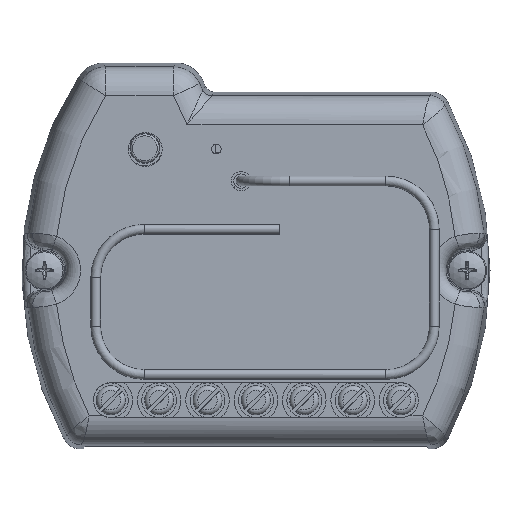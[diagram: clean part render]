
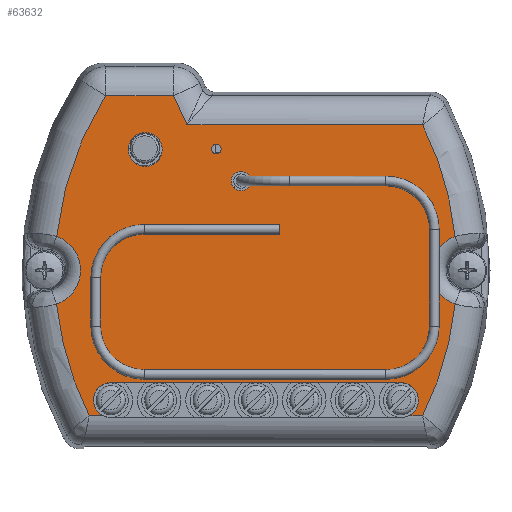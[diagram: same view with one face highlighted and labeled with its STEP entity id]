
A CAD part, top view. The second image highlights one B-rep face of the part: STEP entity #63632.
In plain terms, the highlighted planar face has unit normal (0, 0, 1).
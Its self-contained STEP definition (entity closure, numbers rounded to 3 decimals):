
#2546=FACE_BOUND('',#13447,.T.);
#2547=FACE_BOUND('',#13448,.T.);
#2548=FACE_BOUND('',#13449,.T.);
#7921=PLANE('',#71669);
#9718=FACE_OUTER_BOUND('',#13446,.T.);
#13446=EDGE_LOOP('',(#46243,#46244,#46245,#46246,#46247,#46248,#46249,#46250,
#46251,#46252,#46253,#46254,#46255,#46256));
#13447=EDGE_LOOP('',(#46257));
#13448=EDGE_LOOP('',(#46258));
#13449=EDGE_LOOP('',(#46259));
#17591=LINE('',#104150,#22720);
#17593=LINE('',#104202,#22722);
#17596=LINE('',#104214,#22725);
#17599=LINE('',#104282,#22728);
#17600=LINE('',#104286,#22729);
#17601=LINE('',#104290,#22730);
#22720=VECTOR('',#80246,10.);
#22722=VECTOR('',#80252,10.);
#22725=VECTOR('',#80267,10.);
#22728=VECTOR('',#80296,10.);
#22729=VECTOR('',#80299,10.);
#22730=VECTOR('',#80302,10.);
#28225=CIRCLE('',#71594,1.);
#28229=CIRCLE('',#71600,0.5);
#28264=CIRCLE('',#71664,33.582);
#28267=CIRCLE('',#71670,3.724);
#28268=CIRCLE('',#71671,33.582);
#28269=CIRCLE('',#71672,1.8);
#28270=CIRCLE('',#71673,1.8);
#28271=CIRCLE('',#71674,33.582);
#28272=CIRCLE('',#71675,3.724);
#28273=CIRCLE('',#71676,33.582);
#28274=CIRCLE('',#71677,1.75);
#31291=VERTEX_POINT('',#101816);
#31294=VERTEX_POINT('',#101826);
#31391=VERTEX_POINT('',#104138);
#31393=VERTEX_POINT('',#104149);
#31395=VERTEX_POINT('',#104200);
#31398=VERTEX_POINT('',#104212);
#31402=VERTEX_POINT('',#104252);
#31407=VERTEX_POINT('',#104277);
#31408=VERTEX_POINT('',#104279);
#31409=VERTEX_POINT('',#104281);
#31410=VERTEX_POINT('',#104283);
#31411=VERTEX_POINT('',#104285);
#31412=VERTEX_POINT('',#104287);
#31413=VERTEX_POINT('',#104289);
#31414=VERTEX_POINT('',#104291);
#31415=VERTEX_POINT('',#104293);
#31416=VERTEX_POINT('',#104296);
#36848=EDGE_CURVE('',#31291,#31291,#28225,.T.);
#36853=EDGE_CURVE('',#31294,#31294,#28229,.T.);
#36977=EDGE_CURVE('',#31391,#31393,#17591,.T.);
#36981=EDGE_CURVE('',#31395,#31391,#17593,.T.);
#36987=EDGE_CURVE('',#31398,#31395,#17596,.T.);
#36996=EDGE_CURVE('',#31402,#31398,#28264,.T.);
#37002=EDGE_CURVE('',#31407,#31402,#28267,.T.);
#37003=EDGE_CURVE('',#31408,#31407,#28268,.T.);
#37004=EDGE_CURVE('',#31409,#31408,#17599,.T.);
#37005=EDGE_CURVE('',#31409,#31410,#28269,.T.);
#37006=EDGE_CURVE('',#31410,#31411,#17600,.T.);
#37007=EDGE_CURVE('',#31411,#31412,#28270,.T.);
#37008=EDGE_CURVE('',#31413,#31412,#17601,.T.);
#37009=EDGE_CURVE('',#31414,#31413,#28271,.T.);
#37010=EDGE_CURVE('',#31415,#31414,#28272,.T.);
#37011=EDGE_CURVE('',#31393,#31415,#28273,.T.);
#37012=EDGE_CURVE('',#31416,#31416,#28274,.T.);
#46243=ORIENTED_EDGE('',*,*,#36987,.F.);
#46244=ORIENTED_EDGE('',*,*,#36996,.F.);
#46245=ORIENTED_EDGE('',*,*,#37002,.F.);
#46246=ORIENTED_EDGE('',*,*,#37003,.F.);
#46247=ORIENTED_EDGE('',*,*,#37004,.F.);
#46248=ORIENTED_EDGE('',*,*,#37005,.T.);
#46249=ORIENTED_EDGE('',*,*,#37006,.T.);
#46250=ORIENTED_EDGE('',*,*,#37007,.T.);
#46251=ORIENTED_EDGE('',*,*,#37008,.F.);
#46252=ORIENTED_EDGE('',*,*,#37009,.F.);
#46253=ORIENTED_EDGE('',*,*,#37010,.F.);
#46254=ORIENTED_EDGE('',*,*,#37011,.F.);
#46255=ORIENTED_EDGE('',*,*,#36977,.F.);
#46256=ORIENTED_EDGE('',*,*,#36981,.F.);
#46257=ORIENTED_EDGE('',*,*,#36848,.T.);
#46258=ORIENTED_EDGE('',*,*,#36853,.T.);
#46259=ORIENTED_EDGE('',*,*,#37012,.T.);
#63632=ADVANCED_FACE('',(#9718,#2546,#2547,#2548),#7921,.T.);
#71594=AXIS2_PLACEMENT_3D('',#101817,#80071,#80072);
#71600=AXIS2_PLACEMENT_3D('',#101827,#80084,#80085);
#71664=AXIS2_PLACEMENT_3D('',#104258,#80279,#80280);
#71669=AXIS2_PLACEMENT_3D('',#104276,#80290,#80291);
#71670=AXIS2_PLACEMENT_3D('',#104278,#80292,#80293);
#71671=AXIS2_PLACEMENT_3D('',#104280,#80294,#80295);
#71672=AXIS2_PLACEMENT_3D('',#104284,#80297,#80298);
#71673=AXIS2_PLACEMENT_3D('',#104288,#80300,#80301);
#71674=AXIS2_PLACEMENT_3D('',#104292,#80303,#80304);
#71675=AXIS2_PLACEMENT_3D('',#104294,#80305,#80306);
#71676=AXIS2_PLACEMENT_3D('',#104295,#80307,#80308);
#71677=AXIS2_PLACEMENT_3D('',#104297,#80309,#80310);
#80071=DIRECTION('center_axis',(0.,0.,-1.));
#80072=DIRECTION('ref_axis',(-1.,0.,0.));
#80084=DIRECTION('center_axis',(0.,0.,-1.));
#80085=DIRECTION('ref_axis',(-1.,0.,0.));
#80246=DIRECTION('',(1.,0.,0.));
#80252=DIRECTION('',(0.423,-0.906,0.));
#80267=DIRECTION('',(1.,0.,0.));
#80279=DIRECTION('center_axis',(0.,0.,-1.));
#80280=DIRECTION('ref_axis',(-0.962,0.272,0.));
#80290=DIRECTION('center_axis',(0.,0.,1.));
#80291=DIRECTION('ref_axis',(1.,0.,0.));
#80292=DIRECTION('center_axis',(0.,0.,1.));
#80293=DIRECTION('ref_axis',(1.,0.,0.));
#80294=DIRECTION('center_axis',(0.,0.,-1.));
#80295=DIRECTION('ref_axis',(-0.962,-0.272,0.));
#80296=DIRECTION('',(-1.,0.,0.));
#80297=DIRECTION('center_axis',(0.,0.,-1.));
#80298=DIRECTION('ref_axis',(-1.,0.,0.));
#80299=DIRECTION('',(1.,0.,0.));
#80300=DIRECTION('center_axis',(0.,0.,-1.));
#80301=DIRECTION('ref_axis',(-1.,0.,0.));
#80302=DIRECTION('',(-1.,0.,0.));
#80303=DIRECTION('center_axis',(0.,0.,-1.));
#80304=DIRECTION('ref_axis',(0.962,-0.272,0.));
#80305=DIRECTION('center_axis',(0.,0.,1.));
#80306=DIRECTION('ref_axis',(-1.,0.,0.));
#80307=DIRECTION('center_axis',(0.,0.,-1.));
#80308=DIRECTION('ref_axis',(0.962,0.272,0.));
#80309=DIRECTION('center_axis',(0.,0.,-1.));
#80310=DIRECTION('ref_axis',(1.,0.,0.));
#101816=CARTESIAN_POINT('',(-0.554,9.221,12.5));
#101817=CARTESIAN_POINT('Origin',(-1.554,9.221,12.5));
#101826=CARTESIAN_POINT('',(-3.585,12.527,12.5));
#101827=CARTESIAN_POINT('Origin',(-4.085,12.527,12.5));
#104138=CARTESIAN_POINT('',(-7.126,15.032,12.5));
#104149=CARTESIAN_POINT('',(17.23,15.032,12.5));
#104150=CARTESIAN_POINT('',(-9.047,15.032,12.5));
#104200=CARTESIAN_POINT('',(-8.525,18.032,12.5));
#104202=CARTESIAN_POINT('',(-9.516,20.156,12.5));
#104212=CARTESIAN_POINT('',(-15.53,18.032,12.5));
#104214=CARTESIAN_POINT('',(-14.761,18.032,12.5));
#104252=CARTESIAN_POINT('',(-20.599,3.508,12.5));
#104258=CARTESIAN_POINT('Origin',(12.8,0.,12.5));
#104276=CARTESIAN_POINT('Origin',(-12.174,19.1,12.5));
#104277=CARTESIAN_POINT('',(-20.599,-3.508,12.5));
#104278=CARTESIAN_POINT('Origin',(-21.85,0.,
12.5));
#104279=CARTESIAN_POINT('',(-17.23,-15.032,12.5));
#104280=CARTESIAN_POINT('Origin',(12.8,0.,12.5));
#104281=CARTESIAN_POINT('',(-15.807,-15.032,12.5));
#104282=CARTESIAN_POINT('',(9.047,-15.032,12.5));
#104283=CARTESIAN_POINT('',(-15.,-11.623,12.5));
#104284=CARTESIAN_POINT('Origin',(-15.,-13.423,12.5));
#104285=CARTESIAN_POINT('',(15.,-11.623,12.5));
#104286=CARTESIAN_POINT('',(7.5,-11.623,12.5));
#104287=CARTESIAN_POINT('',(15.807,-15.032,12.5));
#104288=CARTESIAN_POINT('Origin',(15.,-13.423,12.5));
#104289=CARTESIAN_POINT('',(17.23,-15.032,12.5));
#104290=CARTESIAN_POINT('',(9.047,-15.032,12.5));
#104291=CARTESIAN_POINT('',(20.599,-3.508,12.5));
#104292=CARTESIAN_POINT('Origin',(-12.8,0.,12.5));
#104293=CARTESIAN_POINT('',(20.599,3.508,12.5));
#104294=CARTESIAN_POINT('Origin',(21.85,0.,12.5));
#104295=CARTESIAN_POINT('Origin',(-12.8,0.,12.5));
#104296=CARTESIAN_POINT('',(-13.184,12.491,12.5));
#104297=CARTESIAN_POINT('Origin',(-11.434,12.491,12.5));
